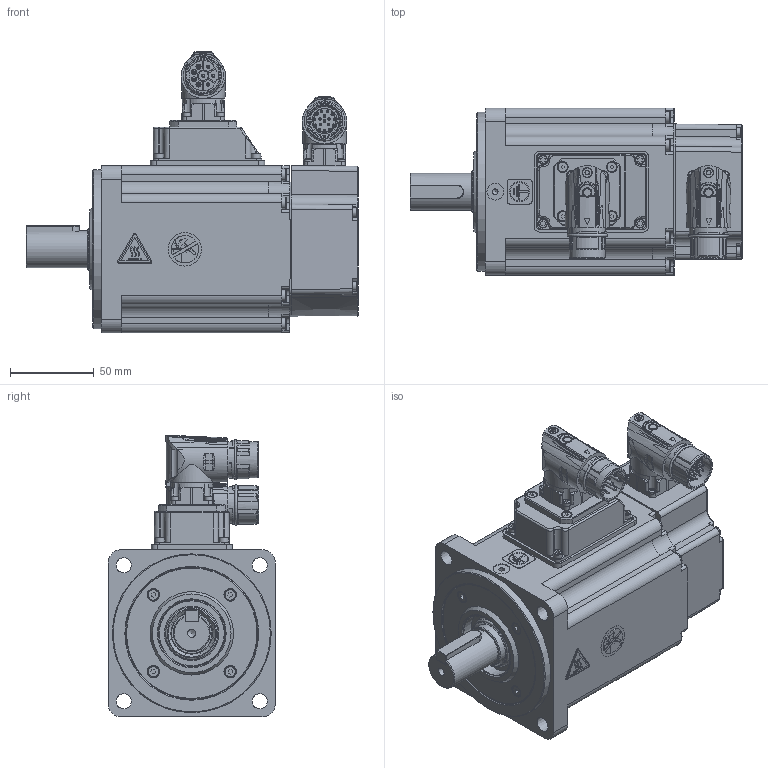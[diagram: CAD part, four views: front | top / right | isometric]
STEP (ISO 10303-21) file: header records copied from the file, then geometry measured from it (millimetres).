
FILE_DESCRIPTION( ( 'Unknown' ), '1' );
FILE_NAME( 'U:/05_Progetto TCE/010-TCE motor drawings/TCE100/vuoti/TCE100 4A XX 3 A2 0 C2.stp', 'Unknown', ( 'Unknown' ), ( 'Unknown' ), 'PSStep 17.0.49', 'Unknown', ' ' );
FILE_SCHEMA( ( 'AUTOMOTIVE_DESIGN { 1 0 10303 214 1 1 1 1 }' ) );
Length unit declared in the file: millimetre
Products named in the file (15): 005911000430
Bounding box: 198.5 x 100.3 x 168.5 mm (x, y, z)
Volume: 663485.4 mm3; surface area: 238443.2 mm2
Topology: 15 solids, 96 shells, 2977 faces, 7417 edges, 4784 vertices
Faces by surface type: plane 1452, cylinder 720, cone 286, bspline 194, torus 176, sphere 111, extrusion 38
Full cylindrical faces by diameter (mm): 0.5 x1, 1 x21, 1.2 x17, 1.4 x4, 2 x4, 2.013 x4, 2.2 x2, 2.459 x24, 2.5 x8, 2.6 x4, 2.8 x4, 3 x29, 3.2 x1, 3.242 x35, 3.5 x8, 4 x21, 4.4 x4, 4.5 x14, 4.7 x4, 4.917 x1, 5.5 x11, 5.8 x1, 5.9 x2, 6.8 x1, 7 x16, 7.5 x4, 8 x4, 10 x1, 11 x1, 12 x1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
Entity records: 116457 total; most frequent: CARTESIAN_POINT 30378, DIRECTION 13262, ORIENTED_EDGE 12794, EDGE_CURVE 6397, AXIS2_PLACEMENT_3D 4970, VERTEX_POINT 4525, EDGE_LOOP 3938, FACE_OUTER_BOUND 3428
